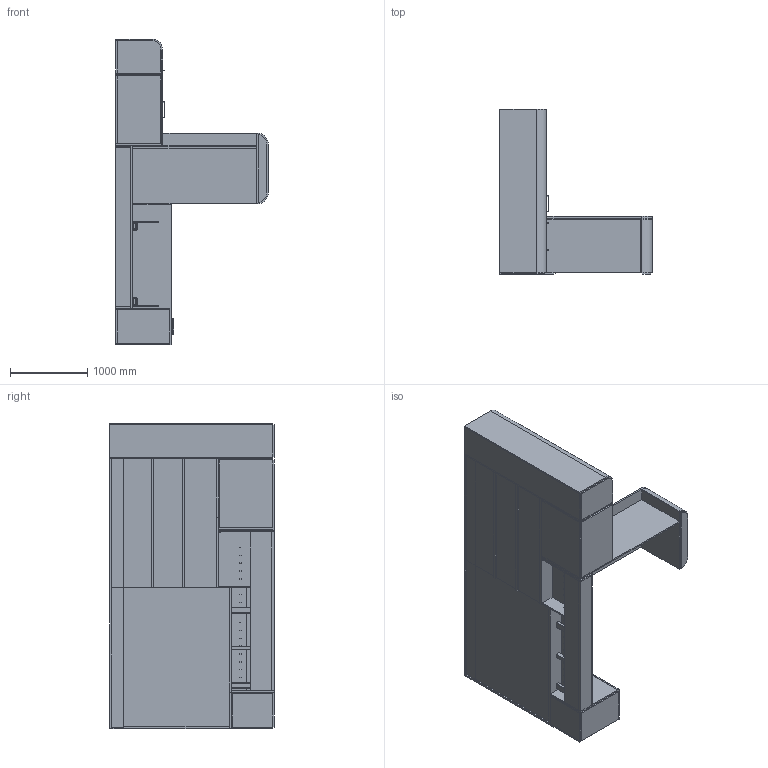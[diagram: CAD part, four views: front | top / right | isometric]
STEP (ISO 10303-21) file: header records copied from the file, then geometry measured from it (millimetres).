
FILE_DESCRIPTION(/* description */ ('','CAx-IF Rec.Pracs.---Representation and Presentation of Product Manufacturing Information (PMI)---4.0---2014-10-13'),/* implementation_level */ '2;1');
FILE_NAME(/* name */ 'BASYS^PO7.stp',/* time_stamp */ '2024-12-05T17:34:10-05:00',/* author */ ('mbowman'),/* organization */ (''),/* preprocessor_version */ 'ST-DEVELOPER v19.2',/* originating_system */ 'Autodesk Inventor 2023',/* authorisation */ '');
FILE_SCHEMA (('AP242_MANAGED_MODEL_BASED_3D_ENGINEERING_MIM_LF { 1 0 10303 442 1 1 4 }'));
Products named in the file (28): BASYS^OFFICE 7_T SHAPE-RIGHT HAND OFFICE; BASYS^OFFICE 7_WALL HUNG-LEFT UNIT; BASYS^OFFICE 7_WALL HUNG-RIGHT UNIT; BASYS^24 DEEP PED_LEGAL LAT-FF PED; BASYS^24 DEEP PED_LEGAL LAT-FF PED_1; BASYS^OFFICE 7_LEGAL LAT-WORKSURFACE; BASYS^OFFICE 7_WARDROBE-LEFT END; BASYS^OFFICE 7_WARDROBE-PARTS SOLID; BASYS^OFFICE 7_36x78 DESK-PARTS SOLID; BASYS^OFFICE 7_RETURN HAT-WORKSURFACE; BASYS^OFFICE 7_WIRE WALL_PARTS SOLID; BASYS^OFFICE 7_24 DEEP PED_LEGAL BF PED; BASYS^OFFICE 7_24 DEEP PED_LEGAL BF PED_1; SCHWINN-BAR PULL 2334.192; BASYS^OFFICE 7_LEGAL BF-WORKSURFACE; dl5nc_without_bracket_STEP; dl5nc_without_bracket_STEP_1; DL5NC_OP; STANDART_MOTORHUS1_DL5; CLAMP ON PWR WITH DATA; ASHLEY 202-2PWR 2 DATA; DESK POWER UNIT BRKT; DESK POWER UNIT; DESK POWER UNIT BRKT BOLTS; H-MP-TUBE1; BASYS^OFFICE 7_WIRE WALL_TROUGH; SS LIFT ANGLE_18_LT_OMT_LINAK (NEW); SS LIFT ANGLE_18_RT_OMT_LINAK (NEW)
Assembly tree (34 placements, depth 3):
  BASYS^OFFICE 7_T SHAPE-RIGHT HAND OFFICE
    BASYS^OFFICE 7_WALL HUNG-LEFT UNIT
    BASYS^OFFICE 7_WALL HUNG-RIGHT UNIT
    BASYS^24 DEEP PED_LEGAL LAT-FF PED
      BASYS^24 DEEP PED_LEGAL LAT-FF PED_1
      SCHWINN-BAR PULL 2334.192  x2
    BASYS^OFFICE 7_LEGAL LAT-WORKSURFACE
    BASYS^OFFICE 7_WARDROBE-LEFT END
      SCHWINN-BAR PULL 2334.192
      BASYS^OFFICE 7_WARDROBE-PARTS SOLID
    BASYS^OFFICE 7_36x78 DESK-PARTS SOLID
    BASYS^OFFICE 7_RETURN HAT-WORKSURFACE
    BASYS^OFFICE 7_WIRE WALL_PARTS SOLID
    BASYS^OFFICE 7_24 DEEP PED_LEGAL BF PED
      BASYS^OFFICE 7_24 DEEP PED_LEGAL BF PED_1
      SCHWINN-BAR PULL 2334.192  x2
    BASYS^OFFICE 7_LEGAL BF-WORKSURFACE
    dl5nc_without_bracket_STEP
      DL5NC_OP
      STANDART_MOTORHUS1_DL5
    dl5nc_without_bracket_STEP_1
      DL5NC_OP
      STANDART_MOTORHUS1_DL5
    CLAMP ON PWR WITH DATA
      ASHLEY 202-2PWR 2 DATA
      DESK POWER UNIT BRKT BOLTS  x2
      DESK POWER UNIT BRKT
      DESK POWER UNIT
    H-MP-TUBE1
    BASYS^OFFICE 7_WIRE WALL_TROUGH
    SS LIFT ANGLE_18_LT_OMT_LINAK (NEW)
    SS LIFT ANGLE_18_RT_OMT_LINAK (NEW)
Bounding box: 1981.2 x 2133.6 x 3962.4 mm (x, y, z)
Volume: 606461857.6 mm3; surface area: 63100477.2 mm2
Topology: 70 solids, 110 shells, 2953 faces, 7507 edges, 4788 vertices
Faces by surface type: plane 1758, cylinder 976, torus 95, bspline 76, sphere 26, cone 22
Full cylindrical faces by diameter (mm): 4.6 x4, 4.762 x4, 4.826 x10, 4.978 x2, 5 x20, 5.3 x12, 5.5 x4, 6.35 x8, 8 x4, 8.202 x40, 8.636 x4, 9.525 x4, 17.272 x2, 25.4 x2, 28.575 x1, 38.1 x2
Entity records: 63031 total; most frequent: CARTESIAN_POINT 15155, DIRECTION 9434, ORIENTED_EDGE 8862, EDGE_CURVE 4431, AXIS2_PLACEMENT_3D 3206, LINE 3022, VECTOR 3022, VERTEX_POINT 2854
